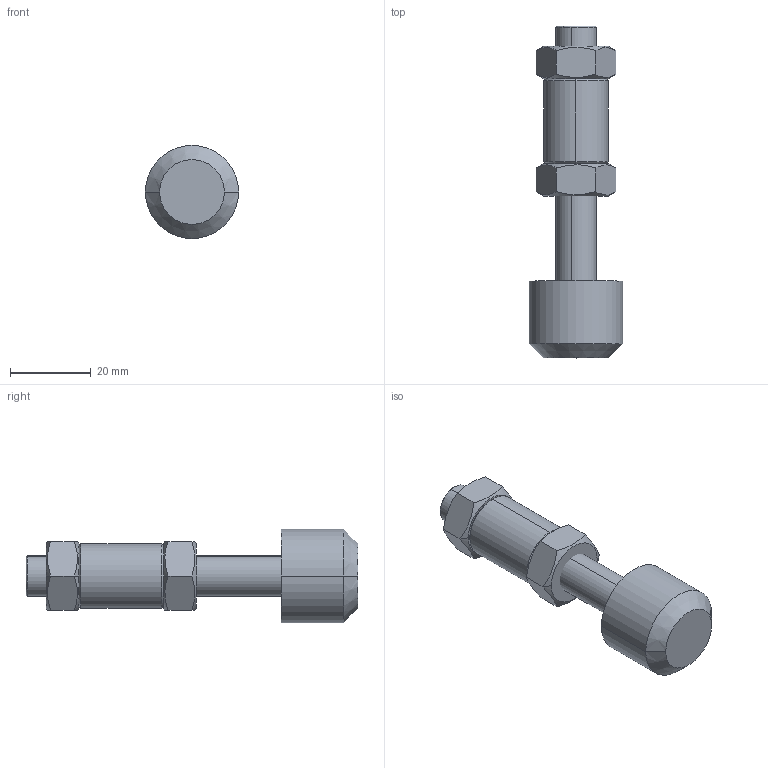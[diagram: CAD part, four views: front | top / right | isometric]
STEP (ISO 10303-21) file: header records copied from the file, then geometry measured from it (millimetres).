
FILE_DESCRIPTION (( 'STEP AP203' ), '1' );
FILE_NAME ('BRB-M10.STEP', '2016-07-25T18:05:35', ( 'Ricardo' ), ( '' ), 'SwSTEP 2.0', 'SolidWorks 2015', '' );
FILE_SCHEMA (( 'CONFIG_CONTROL_DESIGN' ));
Length unit declared in the file: millimetre
Products named in the file (5): 20.20011; 20.20015; 11.50003; 20.20005; BRB-M10
Assembly tree (5 placements, depth 2):
  BRB-M10
    20.20011
    20.20015
    11.50003  x2
    20.20005
Bounding box: 23 x 82 x 23 mm (x, y, z)
Volume: 17685.3 mm3; surface area: 8685.7 mm2
Topology: 5 solids, 5 shells, 68 faces, 150 edges, 91 vertices
Faces by surface type: cone 32, plane 22, cylinder 14
Entity records: 1989 total; most frequent: CARTESIAN_POINT 349, DIRECTION 258, ORIENTED_EDGE 208, AXIS2_PLACEMENT_3D 108, EDGE_CURVE 104, VERTEX_POINT 63, EDGE_LOOP 55, CIRCLE 50
